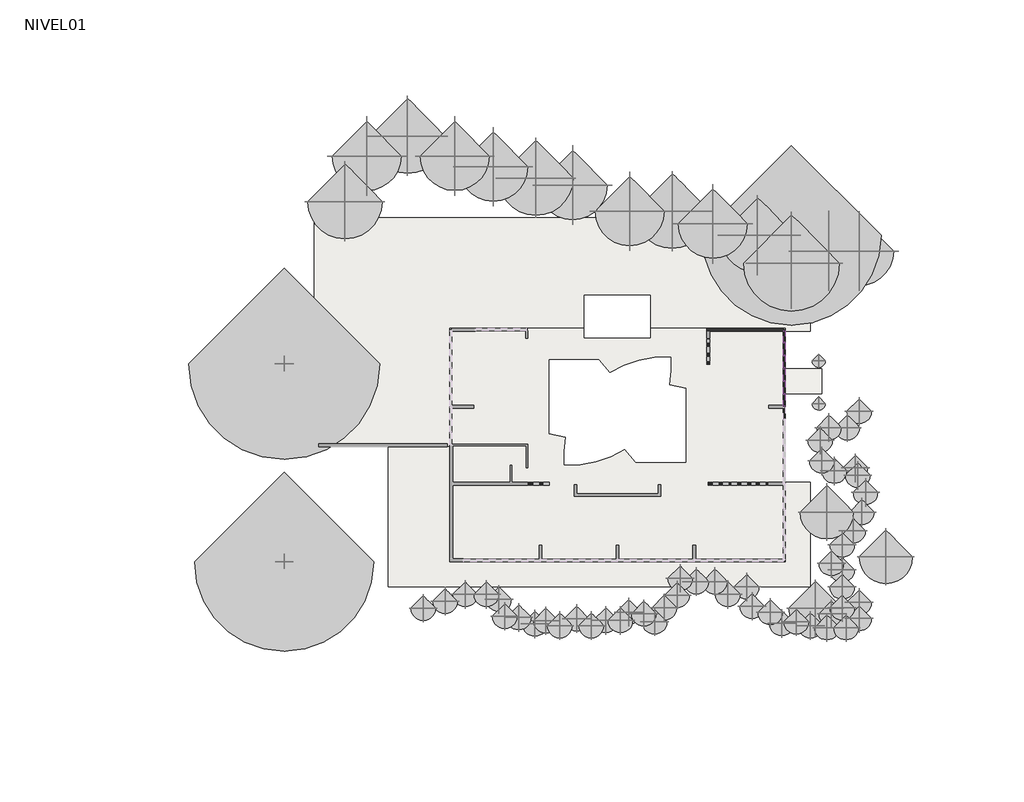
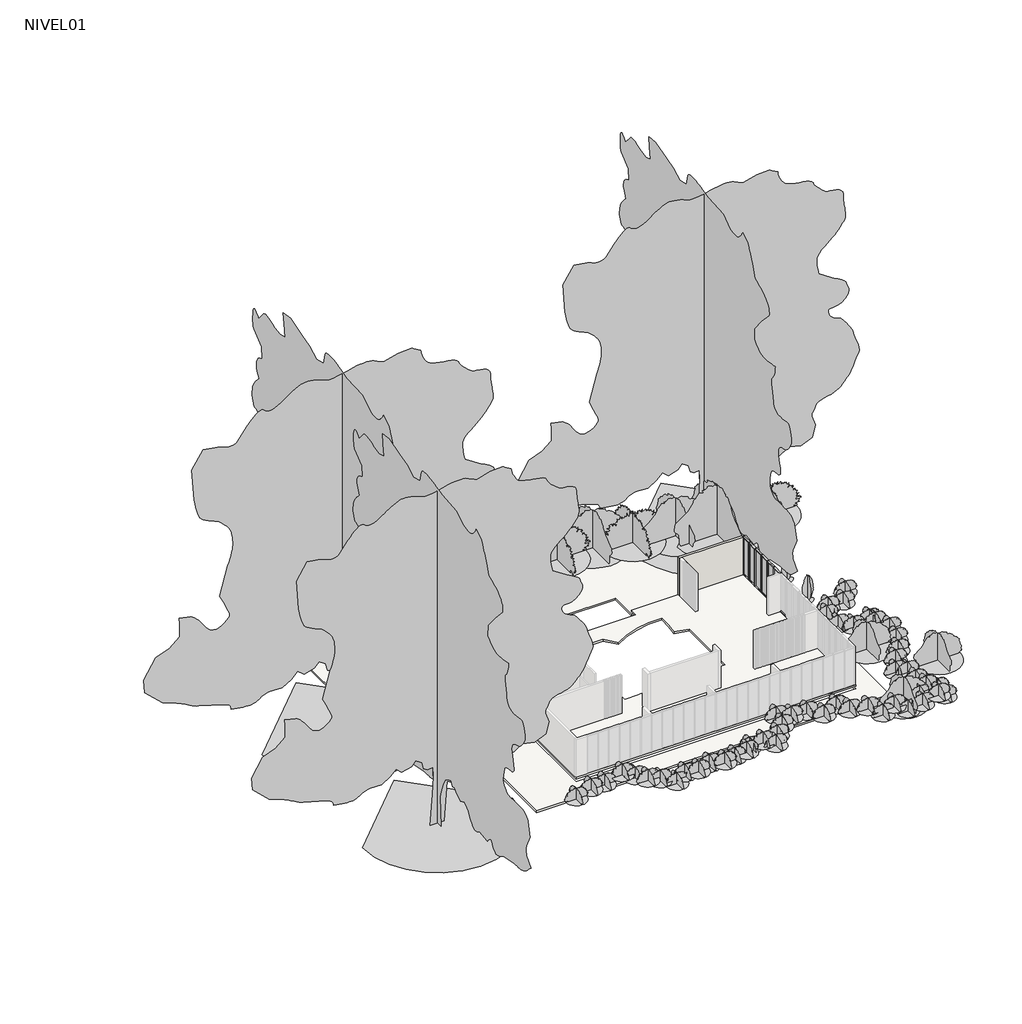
# One storey, part 4 of 4: 72 geographic elements, 20 members, 5 plates, 4 slabs, 1 wall.
"""IFC4 building model written with IfcOpenShell, lengths in millimetres."""

from ifc_helpers import new_model, si_unit, point, frame, frame_2d, origin, place, context, project, spatial, polyline, circle_curve, trimmed, segment, composite_curve, outline, extrude, faceted_brep, transform, mapped, element, save
from components import m_rpc_shrub_386fc6e6, m_rpc_shrub_6250ff07, m_rpc_shrub_65977daa, m_rpc_shrub_0614e2a3, m_rpc_shrub_826c47de, m_rpc_tree_conifer_chinese_juniper_2_14_meters_bd42ecf2, m_rpc_tree_conifer_yellow_pine_30_meters_b7874818, m_rpc_tree_conifer_yellow_pine_32_9beb3d10, rectangular_mullion_50_x_150mm_86a57cfb, rectangular_mullion_50_x_150mm_24ac0887, rectangular_mullion_50_x_150mm_8dc60d6a, rectangular_mullion_50_x_150mm_324a6438, system_panel_glazed_e7fe89f5, system_panel_glazed_7f3dea71

model = new_model("IFC4")

# Units and contexts
model_context = context("Model", 3, world=origin())
ifc_project = project(units=[si_unit("LENGTHUNIT", "METRE", prefix="MILLI")], contexts=[model_context])

# Site, building, storey
site = spatial("IfcSite", under=ifc_project)
building = spatial("IfcBuilding", under=site)
storey = spatial("IfcBuildingStorey", under=building, Name="NIVEL01", Elevation=-1000.0)

# Geographic elements
placement = place(None, origin())
m_rpc_shrub_shape = m_rpc_shrub_386fc6e6(model_context)
element("IfcGeographicElement", 1, ObjectType="M_RPC Shrub : Holly - 2.5 Meters", at=placement, inside=storey, context=model_context, shape_type="MappedRepresentation", body=[
    mapped(m_rpc_shrub_shape, transform((7517.9553864, -2268.7372826, -1000.0), x_axis=(1.0, 0.0, 0.0), y_axis=(0.0, 1.0, 0.0), z_axis=(0.0, 0.0, 1.0))),
])
element("IfcGeographicElement", 2, ObjectType="M_RPC Shrub : Holly - 2.5 Meters", at=placement, inside=storey, context=model_context, shape_type="MappedRepresentation", body=[
    mapped(m_rpc_shrub_shape, transform((11660.2850087, -5412.0860759, -1500.0), x_axis=(1.0, 0.0, 0.0), y_axis=(0.0, 1.0, 0.0), z_axis=(0.0, 0.0, 1.0))),
])
element("IfcGeographicElement", 3, ObjectType="M_RPC Shrub : Holly - 2.5 Meters", at=placement, inside=storey, context=model_context, shape_type="MappedRepresentation", body=[
    mapped(m_rpc_shrub_shape, transform((6713.9430751, -9016.5534411, -1500.0), x_axis=(1.0, 0.0, 0.0), y_axis=(0.0, 1.0, 0.0), z_axis=(0.0, 0.0, 1.0))),
])
m_rpc_shrub_2_shape = m_rpc_shrub_6250ff07(model_context)
element("IfcGeographicElement", 4, ObjectType="M_RPC Shrub : Holly - 3.5 Meters", at=placement, inside=storey, context=model_context, shape_type="MappedRepresentation", body=[
    mapped(m_rpc_shrub_2_shape, transform((2666.4065252, 17157.274713, -1000.0), x_axis=(1.0, 0.0, 0.0), y_axis=(0.0, 1.0, 0.0), z_axis=(0.0, 0.0, 1.0))),
])
element("IfcGeographicElement", 5, ObjectType="M_RPC Shrub : Holly - 3.5 Meters", at=placement, inside=storey, context=model_context, shape_type="MappedRepresentation", body=[
    mapped(m_rpc_shrub_2_shape, transform((7666.4065252, 16061.8139241, -1000.0), x_axis=(1.0, 0.0, 0.0), y_axis=(0.0, 1.0, 0.0), z_axis=(0.0, 0.0, 1.0))),
])
element("IfcGeographicElement", 6, ObjectType="M_RPC Shrub : Holly - 3.5 Meters", at=placement, inside=storey, context=model_context, shape_type="MappedRepresentation", body=[
    mapped(m_rpc_shrub_2_shape, transform((-3331.5766686, 18856.2125739, -1000.0), x_axis=(1.0, 0.0, 0.0), y_axis=(0.0, 1.0, 0.0), z_axis=(0.0, 0.0, 1.0))),
])
element("IfcGeographicElement", 7, ObjectType="M_RPC Shrub : Holly - 3.5 Meters", at=placement, inside=storey, context=model_context, shape_type="MappedRepresentation", body=[
    mapped(m_rpc_shrub_2_shape, transform((-26309.3934748, 19533.9139241, -1000.0), x_axis=(1.0, 0.0, 0.0), y_axis=(0.0, 1.0, 0.0), z_axis=(0.0, 0.0, 1.0))),
])
element("IfcGeographicElement", 8, ObjectType="M_RPC Shrub : Holly - 3.5 Meters", at=placement, inside=storey, context=model_context, shape_type="MappedRepresentation", body=[
    mapped(m_rpc_shrub_2_shape, transform((-21909.3934748, 24133.9139241, -1000.0), x_axis=(1.0, 0.0, 0.0), y_axis=(0.0, 1.0, 0.0), z_axis=(0.0, 0.0, 1.0))),
])
element("IfcGeographicElement", 9, ObjectType="M_RPC Shrub : Holly - 3.5 Meters", at=placement, inside=storey, context=model_context, shape_type="MappedRepresentation", body=[
    mapped(m_rpc_shrub_2_shape, transform((-12909.3934748, 21184.7139241, -1000.0), x_axis=(1.0, 0.0, 0.0), y_axis=(0.0, 1.0, 0.0), z_axis=(0.0, 0.0, 1.0))),
])
m_rpc_shrub_3_shape = m_rpc_shrub_65977daa(model_context)
element("IfcGeographicElement", 10, ObjectType="M_RPC Shrub : Holly - 2.8 Meters", at=placement, inside=storey, context=model_context, shape_type="MappedRepresentation", body=[
    mapped(m_rpc_shrub_3_shape, transform((-483.5934748, 17971.8139241, -1000.0), x_axis=(1.0, 0.0, 0.0), y_axis=(0.0, 1.0, 0.0), z_axis=(0.0, 0.0, 1.0))),
])
element("IfcGeographicElement", 11, ObjectType="M_RPC Shrub : Holly - 2.8 Meters", at=placement, inside=storey, context=model_context, shape_type="MappedRepresentation", body=[
    mapped(m_rpc_shrub_3_shape, transform((9777.0664754, 16061.8139241, -1000.0), x_axis=(1.0, 0.0, 0.0), y_axis=(0.0, 1.0, 0.0), z_axis=(0.0, 0.0, 1.0))),
])
element("IfcGeographicElement", 12, ObjectType="M_RPC Shrub : Holly - 2.8 Meters", at=placement, inside=storey, context=model_context, shape_type="MappedRepresentation", body=[
    mapped(m_rpc_shrub_3_shape, transform((-6331.5766686, 18856.2125739, -1000.0), x_axis=(1.0, 0.0, 0.0), y_axis=(0.0, 1.0, 0.0), z_axis=(0.0, 0.0, 1.0))),
])
element("IfcGeographicElement", 13, ObjectType="M_RPC Shrub : Holly - 2.8 Meters", at=placement, inside=storey, context=model_context, shape_type="MappedRepresentation", body=[
    mapped(m_rpc_shrub_3_shape, transform((-10334.9329126, 20687.7409448, -1000.0), x_axis=(1.0, 0.0, 0.0), y_axis=(0.0, 1.0, 0.0), z_axis=(0.0, 0.0, 1.0))),
])
element("IfcGeographicElement", 14, ObjectType="M_RPC Shrub : Holly - 2.8 Meters", at=placement, inside=storey, context=model_context, shape_type="MappedRepresentation", body=[
    mapped(m_rpc_shrub_3_shape, transform((-15909.3934748, 21984.7139241, -1000.0), x_axis=(1.0, 0.0, 0.0), y_axis=(0.0, 1.0, 0.0), z_axis=(0.0, 0.0, 1.0))),
])
element("IfcGeographicElement", 15, ObjectType="M_RPC Shrub : Holly - 2.8 Meters", at=placement, inside=storey, context=model_context, shape_type="MappedRepresentation", body=[
    mapped(m_rpc_shrub_3_shape, transform((-18609.3934748, 22733.9139241, -1000.0), x_axis=(1.0, 0.0, 0.0), y_axis=(0.0, 1.0, 0.0), z_axis=(0.0, 0.0, 1.0))),
])
element("IfcGeographicElement", 16, ObjectType="M_RPC Shrub : Holly - 2.8 Meters", at=placement, inside=storey, context=model_context, shape_type="MappedRepresentation", body=[
    mapped(m_rpc_shrub_3_shape, transform((-24784.3934748, 22733.9139241, -1000.0), x_axis=(1.0, 0.0, 0.0), y_axis=(0.0, 1.0, 0.0), z_axis=(0.0, 0.0, 1.0))),
])
m_rpc_shrub_4_shape = m_rpc_shrub_0614e2a3(model_context)
element("IfcGeographicElement", 17, ObjectType="M_RPC Shrub : Holly - 1.0 Meters", at=placement, inside=storey, context=model_context, shape_type="MappedRepresentation", body=[
    mapped(m_rpc_shrub_4_shape, transform((7516.4065252, -10365.5860763, -1000.0), x_axis=(1.0, 0.0, 0.0), y_axis=(0.0, 1.0, 0.0), z_axis=(0.0, 0.0, 1.0))),
])
element("IfcGeographicElement", 18, ObjectType="M_RPC Shrub : Holly - 1.0 Meters", at=placement, inside=storey, context=model_context, shape_type="MappedRepresentation", body=[
    mapped(m_rpc_shrub_4_shape, transform((9777.0664754, -9730.0860759, -1500.0), x_axis=(1.0, 0.0, 0.0), y_axis=(0.0, 1.0, 0.0), z_axis=(0.0, 0.0, 1.0))),
])
element("IfcGeographicElement", 19, ObjectType="M_RPC Shrub : Holly - 1.0 Meters", at=placement, inside=storey, context=model_context, shape_type="MappedRepresentation", body=[
    mapped(m_rpc_shrub_4_shape, transform((9777.0664754, -8606.0860759, -1500.0), x_axis=(1.0, 0.0, 0.0), y_axis=(0.0, 1.0, 0.0), z_axis=(0.0, 0.0, 1.0))),
])
element("IfcGeographicElement", 20, ObjectType="M_RPC Shrub : Holly - 1.0 Meters", at=placement, inside=storey, context=model_context, shape_type="MappedRepresentation", body=[
    mapped(m_rpc_shrub_4_shape, transform((8589.6752609, -7516.0860759, -1000.0), x_axis=(1.0, 0.0, 0.0), y_axis=(0.0, 1.0, 0.0), z_axis=(0.0, 0.0, 1.0))),
])
element("IfcGeographicElement", 21, ObjectType="M_RPC Shrub : Holly - 1.0 Meters", at=placement, inside=storey, context=model_context, shape_type="MappedRepresentation", body=[
    mapped(m_rpc_shrub_4_shape, transform((7839.6752609, -5866.0860759, -1000.0), x_axis=(1.0, 0.0, 0.0), y_axis=(0.0, 1.0, 0.0), z_axis=(0.0, 0.0, 1.0))),
])
element("IfcGeographicElement", 22, ObjectType="M_RPC Shrub : Holly - 1.0 Meters", at=placement, inside=storey, context=model_context, shape_type="MappedRepresentation", body=[
    mapped(m_rpc_shrub_4_shape, transform((8589.6752609, -4567.0479703, -1000.0), x_axis=(1.0, 0.0, 0.0), y_axis=(0.0, 1.0, 0.0), z_axis=(0.0, 0.0, 1.0))),
])
element("IfcGeographicElement", 23, ObjectType="M_RPC Shrub : Holly - 1.0 Meters", at=placement, inside=storey, context=model_context, shape_type="MappedRepresentation", body=[
    mapped(m_rpc_shrub_4_shape, transform((9361.4065252, -3576.0860759, -1000.0), x_axis=(1.0, 0.0, 0.0), y_axis=(0.0, 1.0, 0.0), z_axis=(0.0, 0.0, 1.0))),
])
element("IfcGeographicElement", 24, ObjectType="M_RPC Shrub : Holly - 1.0 Meters", at=placement, inside=storey, context=model_context, shape_type="MappedRepresentation", body=[
    mapped(m_rpc_shrub_4_shape, transform((9973.9125273, -2266.0860759, -1000.0), x_axis=(1.0, 0.0, 0.0), y_axis=(0.0, 1.0, 0.0), z_axis=(0.0, 0.0, 1.0))),
])
element("IfcGeographicElement", 25, ObjectType="M_RPC Shrub : Holly - 1.0 Meters", at=placement, inside=storey, context=model_context, shape_type="MappedRepresentation", body=[
    mapped(m_rpc_shrub_4_shape, transform((10229.7152912, -877.2816632, -1000.0), x_axis=(1.0, 0.0, 0.0), y_axis=(0.0, 1.0, 0.0), z_axis=(0.0, 0.0, 1.0))),
])
element("IfcGeographicElement", 26, ObjectType="M_RPC Shrub : Holly - 1.0 Meters", at=placement, inside=storey, context=model_context, shape_type="MappedRepresentation", body=[
    mapped(m_rpc_shrub_4_shape, transform((9684.7152912, 312.7183368, -1000.0), x_axis=(1.0, 0.0, 0.0), y_axis=(0.0, 1.0, 0.0), z_axis=(0.0, 0.0, 1.0))),
])
element("IfcGeographicElement", 27, ObjectType="M_RPC Shrub : Holly - 1.0 Meters", at=placement, inside=storey, context=model_context, shape_type="MappedRepresentation", body=[
    mapped(m_rpc_shrub_4_shape, transform((9516.4065252, 833.9139241, -1000.0), x_axis=(1.0, 0.0, 0.0), y_axis=(0.0, 1.0, 0.0), z_axis=(0.0, 0.0, 1.0))),
])
element("IfcGeographicElement", 28, ObjectType="M_RPC Shrub : Holly - 1.0 Meters", at=placement, inside=storey, context=model_context, shape_type="MappedRepresentation", body=[
    mapped(m_rpc_shrub_4_shape, transform((8045.5845625, 623.2334955, -1000.0), x_axis=(1.0, 0.0, 0.0), y_axis=(0.0, 1.0, 0.0), z_axis=(0.0, 0.0, 1.0))),
])
element("IfcGeographicElement", 29, ObjectType="M_RPC Shrub : Holly - 1.0 Meters", at=placement, inside=storey, context=model_context, shape_type="MappedRepresentation", body=[
    mapped(m_rpc_shrub_4_shape, transform((7166.4065252, 1333.9139241, -1000.0), x_axis=(1.0, 0.0, 0.0), y_axis=(0.0, 1.0, 0.0), z_axis=(0.0, 0.0, 1.0))),
])
element("IfcGeographicElement", 30, ObjectType="M_RPC Shrub : Holly - 1.0 Meters", at=placement, inside=storey, context=model_context, shape_type="MappedRepresentation", body=[
    mapped(m_rpc_shrub_4_shape, transform((7666.4065252, 3669.0938725, -1000.0), x_axis=(1.0, 0.0, 0.0), y_axis=(0.0, 1.0, 0.0), z_axis=(0.0, 0.0, 1.0))),
])
element("IfcGeographicElement", 31, ObjectType="M_RPC Shrub : Holly - 1.0 Meters", at=placement, inside=storey, context=model_context, shape_type="MappedRepresentation", body=[
    mapped(m_rpc_shrub_4_shape, transform((7045.5845625, 2781.5955228, -1000.0), x_axis=(1.0, 0.0, 0.0), y_axis=(0.0, 1.0, 0.0), z_axis=(0.0, 0.0, 1.0))),
])
element("IfcGeographicElement", 32, ObjectType="M_RPC Shrub : Holly - 1.0 Meters", at=placement, inside=storey, context=model_context, shape_type="MappedRepresentation", body=[
    mapped(m_rpc_shrub_4_shape, transform((8948.8309153, 3669.0938725, -1000.0), x_axis=(1.0, 0.0, 0.0), y_axis=(0.0, 1.0, 0.0), z_axis=(0.0, 0.0, 1.0))),
])
element("IfcGeographicElement", 33, ObjectType="M_RPC Shrub : Holly - 1.0 Meters", at=placement, inside=storey, context=model_context, shape_type="MappedRepresentation", body=[
    mapped(m_rpc_shrub_4_shape, transform((9777.0664754, 4807.4903604, -1000.0), x_axis=(1.0, 0.0, 0.0), y_axis=(0.0, 1.0, 0.0), z_axis=(0.0, 0.0, 1.0))),
])
element("IfcGeographicElement", 34, ObjectType="M_RPC Shrub : Holly - 1.0 Meters", at=placement, inside=storey, context=model_context, shape_type="MappedRepresentation", body=[
    mapped(m_rpc_shrub_4_shape, transform((6366.4065252, -10230.7090578, -1250.0), x_axis=(1.0, 0.0, 0.0), y_axis=(0.0, 1.0, 0.0), z_axis=(0.0, 0.0, 1.0))),
])
element("IfcGeographicElement", 35, ObjectType="M_RPC Shrub : Holly - 1.0 Meters", at=placement, inside=storey, context=model_context, shape_type="MappedRepresentation", body=[
    mapped(m_rpc_shrub_4_shape, transform((4351.4065252, -10078.2778352, -1000.0), x_axis=(1.0, 0.0, 0.0), y_axis=(0.0, 1.0, 0.0), z_axis=(0.0, 0.0, 1.0))),
])
element("IfcGeographicElement", 36, ObjectType="M_RPC Shrub : Holly - 1.0 Meters", at=placement, inside=storey, context=model_context, shape_type="MappedRepresentation", body=[
    mapped(m_rpc_shrub_4_shape, transform((568.4233314, -8041.0860763, -1000.0), x_axis=(1.0, 0.0, 0.0), y_axis=(0.0, 1.0, 0.0), z_axis=(0.0, 0.0, 1.0))),
])
element("IfcGeographicElement", 37, ObjectType="M_RPC Shrub : Holly - 1.0 Meters", at=placement, inside=storey, context=model_context, shape_type="MappedRepresentation", body=[
    mapped(m_rpc_shrub_4_shape, transform((-4578.5934748, -9965.5860763, -650.0), x_axis=(1.0, 0.0, 0.0), y_axis=(0.0, 1.0, 0.0), z_axis=(0.0, 0.0, 1.0))),
])
element("IfcGeographicElement", 38, ObjectType="M_RPC Shrub : Holly - 1.0 Meters", at=placement, inside=storey, context=model_context, shape_type="MappedRepresentation", body=[
    mapped(m_rpc_shrub_4_shape, transform((-12983.8812028, -10113.2305049, -1000.0), x_axis=(1.0, 0.0, 0.0), y_axis=(0.0, 1.0, 0.0), z_axis=(0.0, 0.0, 1.0))),
])
element("IfcGeographicElement", 39, ObjectType="M_RPC Shrub : Holly - 1.0 Meters", at=placement, inside=storey, context=model_context, shape_type="MappedRepresentation", body=[
    mapped(m_rpc_shrub_4_shape, transform((-16383.5934748, -8041.0860763, -300.0), x_axis=(1.0, 0.0, 0.0), y_axis=(0.0, 1.0, 0.0), z_axis=(0.0, 0.0, 1.0))),
])
element("IfcGeographicElement", 40, ObjectType="M_RPC Shrub : Holly - 1.0 Meters", at=placement, inside=storey, context=model_context, shape_type="MappedRepresentation", body=[
    mapped(m_rpc_shrub_4_shape, transform((-19283.5934748, -8514.507297, -300.0), x_axis=(1.0, 0.0, 0.0), y_axis=(0.0, 1.0, 0.0), z_axis=(0.0, 0.0, 1.0))),
])
element("IfcGeographicElement", 41, ObjectType="M_RPC Shrub : Holly - 1.0 Meters", at=placement, inside=storey, context=model_context, shape_type="MappedRepresentation", body=[
    mapped(m_rpc_shrub_4_shape, transform((-20819.7580633, -9016.5534411, -300.0), x_axis=(1.0, 0.0, 0.0), y_axis=(0.0, 1.0, 0.0), z_axis=(0.0, 0.0, 1.0))),
])
element("IfcGeographicElement", 42, ObjectType="M_RPC Shrub : Holly - 1.0 Meters", at=placement, inside=storey, context=model_context, shape_type="MappedRepresentation", body=[
    mapped(m_rpc_shrub_4_shape, transform((-6972.7534099, -9863.7884992, -500.0), x_axis=(1.0, 0.0, 0.0), y_axis=(0.0, 1.0, 0.0), z_axis=(0.0, 0.0, 1.0))),
])
element("IfcGeographicElement", 43, ObjectType="M_RPC Shrub : Holly - 1.0 Meters", at=placement, inside=storey, context=model_context, shape_type="MappedRepresentation", body=[
    mapped(m_rpc_shrub_4_shape, transform((-15092.7934748, -9579.4016136, -300.0), x_axis=(1.0, 0.0, 0.0), y_axis=(0.0, 1.0, 0.0), z_axis=(0.0, 0.0, 1.0))),
])
element("IfcGeographicElement", 44, ObjectType="M_RPC Shrub : Holly - 1.0 Meters", at=placement, inside=storey, context=model_context, shape_type="MappedRepresentation", body=[
    mapped(m_rpc_shrub_4_shape, transform((-5330.9317927, -9398.4140035, -500.0), x_axis=(1.0, 0.0, 0.0), y_axis=(0.0, 1.0, 0.0), z_axis=(0.0, 0.0, 1.0))),
])
element("IfcGeographicElement", 45, ObjectType="M_RPC Shrub : Holly - 1.0 Meters", at=placement, inside=storey, context=model_context, shape_type="MappedRepresentation", body=[
    mapped(m_rpc_shrub_4_shape, transform((-9024.4476115, -10230.7090578, -500.0), x_axis=(1.0, 0.0, 0.0), y_axis=(0.0, 1.0, 0.0), z_axis=(0.0, 0.0, 1.0))),
])
element("IfcGeographicElement", 46, ObjectType="M_RPC Shrub : Holly - 1.0 Meters", at=placement, inside=storey, context=model_context, shape_type="MappedRepresentation", body=[
    mapped(m_rpc_shrub_4_shape, transform((-11232.2102242, -10230.7090578, -500.0), x_axis=(1.0, 0.0, 0.0), y_axis=(0.0, 1.0, 0.0), z_axis=(0.0, 0.0, 1.0))),
])
element("IfcGeographicElement", 47, ObjectType="M_RPC Shrub : Holly - 1.0 Meters", at=placement, inside=storey, context=model_context, shape_type="MappedRepresentation", body=[
    mapped(m_rpc_shrub_4_shape, transform((2266.4065252, -8869.3673953, -650.0), x_axis=(1.0, 0.0, 0.0), y_axis=(0.0, 1.0, 0.0), z_axis=(0.0, 0.0, 1.0))),
])
element("IfcGeographicElement", 48, ObjectType="M_RPC Shrub : Holly - 1.0 Meters", at=placement, inside=storey, context=model_context, shape_type="MappedRepresentation", body=[
    mapped(m_rpc_shrub_4_shape, transform((-3887.6511961, -8978.8182381, -650.0), x_axis=(1.0, 0.0, 0.0), y_axis=(0.0, 1.0, 0.0), z_axis=(0.0, 0.0, 1.0))),
])
element("IfcGeographicElement", 49, ObjectType="M_RPC Shrub : Holly - 1.0 Meters", at=placement, inside=storey, context=model_context, shape_type="MappedRepresentation", body=[
    mapped(m_rpc_shrub_4_shape, transform((-2783.5934748, -6912.0860759, -650.0), x_axis=(1.0, 0.0, 0.0), y_axis=(0.0, 1.0, 0.0), z_axis=(0.0, 0.0, 1.0))),
])
element("IfcGeographicElement", 50, ObjectType="M_RPC Shrub : Holly - 1.0 Meters", at=placement, inside=storey, context=model_context, shape_type="MappedRepresentation", body=[
    mapped(m_rpc_shrub_4_shape, transform((-1652.6388985, -7142.281144, -900.0), x_axis=(1.0, 0.0, 0.0), y_axis=(0.0, 1.0, 0.0), z_axis=(0.0, 0.0, 1.0))),
])
element("IfcGeographicElement", 51, ObjectType="M_RPC Shrub : Holly - 1.0 Meters", at=placement, inside=storey, context=model_context, shape_type="MappedRepresentation", body=[
    mapped(m_rpc_shrub_4_shape, transform((-348.5934748, -7142.281144, -1000.0), x_axis=(1.0, 0.0, 0.0), y_axis=(0.0, 1.0, 0.0), z_axis=(0.0, 0.0, 1.0))),
])
element("IfcGeographicElement", 52, ObjectType="M_RPC Shrub : Holly - 1.0 Meters", at=placement, inside=storey, context=model_context, shape_type="MappedRepresentation", body=[
    mapped(m_rpc_shrub_4_shape, transform((1881.4065252, -7516.0860759, -1000.0), x_axis=(1.0, 0.0, 0.0), y_axis=(0.0, 1.0, 0.0), z_axis=(0.0, 0.0, 1.0))),
])
element("IfcGeographicElement", 53, ObjectType="M_RPC Shrub : Holly - 1.0 Meters", at=placement, inside=storey, context=model_context, shape_type="MappedRepresentation", body=[
    mapped(m_rpc_shrub_4_shape, transform((-6404.9772164, -9282.3542555, -650.0), x_axis=(1.0, 0.0, 0.0), y_axis=(0.0, 1.0, 0.0), z_axis=(0.0, 0.0, 1.0))),
])
element("IfcGeographicElement", 54, ObjectType="M_RPC Shrub : Holly - 1.0 Meters", at=placement, inside=storey, context=model_context, shape_type="MappedRepresentation", body=[
    mapped(m_rpc_shrub_4_shape, transform((-8002.4546717, -9863.7884992, -650.0), x_axis=(1.0, 0.0, 0.0), y_axis=(0.0, 1.0, 0.0), z_axis=(0.0, 0.0, 1.0))),
])
element("IfcGeographicElement", 55, ObjectType="M_RPC Shrub : Holly - 1.0 Meters", at=placement, inside=storey, context=model_context, shape_type="MappedRepresentation", body=[
    mapped(m_rpc_shrub_4_shape, transform((-10056.7370854, -9741.2547249, -650.0), x_axis=(1.0, 0.0, 0.0), y_axis=(0.0, 1.0, 0.0), z_axis=(0.0, 0.0, 1.0))),
])
element("IfcGeographicElement", 56, ObjectType="M_RPC Shrub : Holly - 1.0 Meters", at=placement, inside=storey, context=model_context, shape_type="MappedRepresentation", body=[
    mapped(m_rpc_shrub_4_shape, transform((-14114.2657142, -9662.4385392, -650.0), x_axis=(1.0, 0.0, 0.0), y_axis=(0.0, 1.0, 0.0), z_axis=(0.0, 0.0, 1.0))),
])
element("IfcGeographicElement", 57, ObjectType="M_RPC Shrub : Holly - 1.0 Meters", at=placement, inside=storey, context=model_context, shape_type="MappedRepresentation", body=[
    mapped(m_rpc_shrub_4_shape, transform((-12210.5338238, -9894.1514348, -650.0), x_axis=(1.0, 0.0, 0.0), y_axis=(0.0, 1.0, 0.0), z_axis=(0.0, 0.0, 1.0))),
])
element("IfcGeographicElement", 58, ObjectType="M_RPC Shrub : Holly - 1.0 Meters", at=placement, inside=storey, context=model_context, shape_type="MappedRepresentation", body=[
    mapped(m_rpc_shrub_4_shape, transform((-17877.6388985, -8042.281144, -650.0), x_axis=(1.0, 0.0, 0.0), y_axis=(0.0, 1.0, 0.0), z_axis=(0.0, 0.0, 1.0))),
])
element("IfcGeographicElement", 59, ObjectType="M_RPC Shrub : Holly - 1.0 Meters", at=placement, inside=storey, context=model_context, shape_type="MappedRepresentation", body=[
    mapped(m_rpc_shrub_4_shape, transform((-15502.8756923, -8389.4118312, -650.0), x_axis=(1.0, 0.0, 0.0), y_axis=(0.0, 1.0, 0.0), z_axis=(0.0, 0.0, 1.0))),
])
element("IfcGeographicElement", 60, ObjectType="M_RPC Shrub : Holly - 1.0 Meters", at=placement, inside=storey, context=model_context, shape_type="MappedRepresentation", body=[
    mapped(m_rpc_shrub_4_shape, transform((3551.4065252, -9307.1408798, -650.0), x_axis=(1.0, 0.0, 0.0), y_axis=(0.0, 1.0, 0.0), z_axis=(0.0, 0.0, 1.0))),
])
element("IfcGeographicElement", 61, ObjectType="M_RPC Shrub : Holly - 1.0 Meters", at=placement, inside=storey, context=model_context, shape_type="MappedRepresentation", body=[
    mapped(m_rpc_shrub_4_shape, transform((5366.4065252, -9965.5860763, -650.0), x_axis=(1.0, 0.0, 0.0), y_axis=(0.0, 1.0, 0.0), z_axis=(0.0, 0.0, 1.0))),
])
element("IfcGeographicElement", 62, ObjectType="M_RPC Shrub : Holly - 1.0 Meters", at=placement, inside=storey, context=model_context, shape_type="MappedRepresentation", body=[
    mapped(m_rpc_shrub_4_shape, transform((8861.4065252, -10365.5860763, -650.0), x_axis=(1.0, 0.0, 0.0), y_axis=(0.0, 1.0, 0.0), z_axis=(0.0, 0.0, 1.0))),
])
element("IfcGeographicElement", 63, ObjectType="M_RPC Shrub : Holly - 1.0 Meters", at=placement, inside=storey, context=model_context, shape_type="MappedRepresentation", body=[
    mapped(m_rpc_shrub_4_shape, transform((8589.6752609, -8978.8182381, -650.0), x_axis=(1.0, 0.0, 0.0), y_axis=(0.0, 1.0, 0.0), z_axis=(0.0, 0.0, 1.0))),
])
element("IfcGeographicElement", 64, ObjectType="M_RPC Shrub : Holly - 1.0 Meters", at=placement, inside=storey, context=model_context, shape_type="MappedRepresentation", body=[
    mapped(m_rpc_shrub_4_shape, transform((-2991.971288, -8093.8553796, -650.0), x_axis=(1.0, 0.0, 0.0), y_axis=(0.0, 1.0, 0.0), z_axis=(0.0, 0.0, 1.0))),
])
element("IfcGeographicElement", 65, ObjectType="M_RPC Shrub : Holly - 1.0 Meters", at=placement, inside=storey, context=model_context, shape_type="MappedRepresentation", body=[
    mapped(m_rpc_shrub_4_shape, transform((7839.6752609, -9398.4140035, -1000.0), x_axis=(1.0, 0.0, 0.0), y_axis=(0.0, 1.0, 0.0), z_axis=(0.0, 0.0, 1.0))),
])
element("IfcGeographicElement", 66, ObjectType="M_RPC Shrub : Holly - 1.0 Meters", at=placement, inside=storey, context=model_context, shape_type="MappedRepresentation", body=[
    mapped(m_rpc_shrub_4_shape, transform((8589.6752609, -6320.0860759, -1000.0), x_axis=(1.0, 0.0, 0.0), y_axis=(0.0, 1.0, 0.0), z_axis=(0.0, 0.0, 1.0))),
])
m_rpc_shrub_5_shape = m_rpc_shrub_826c47de(model_context)
element("IfcGeographicElement", 67, ObjectType="M_RPC Shrub : Holly - 4.5 Meters", at=placement, inside=storey, context=model_context, shape_type="MappedRepresentation", body=[
    mapped(m_rpc_shrub_5_shape, transform((5033.0298548, 15198.7700724, -500.0), x_axis=(1.0, 0.0, 0.0), y_axis=(0.0, 1.0, 0.0), z_axis=(0.0, 0.0, 1.0))),
])
m_rpc_tree_conifer_chinese_juniper_2_14_meters_shape = m_rpc_tree_conifer_chinese_juniper_2_14_meters_bd42ecf2(model_context)
element("IfcGeographicElement", 68, ObjectType="M_RPC Tree - Conifer : Chinese Juniper - 2.14 Meters", at=placement, inside=storey, context=model_context, shape_type="MappedRepresentation", body=[
    mapped(m_rpc_tree_conifer_chinese_juniper_2_14_meters_shape, transform((6941.2098541, 8358.9139237, -1000.0), x_axis=(1.0, 0.0, 0.0), y_axis=(0.0, 1.0, 0.0), z_axis=(0.0, 0.0, 1.0))),
])
element("IfcGeographicElement", 69, ObjectType="M_RPC Tree - Conifer : Chinese Juniper - 2.14 Meters", at=placement, inside=storey, context=model_context, shape_type="MappedRepresentation", body=[
    mapped(m_rpc_tree_conifer_chinese_juniper_2_14_meters_shape, transform((6941.2098541, 5358.9139237, -1000.0), x_axis=(1.0, 0.0, 0.0), y_axis=(0.0, 1.0, 0.0), z_axis=(0.0, 0.0, 1.0))),
])
m_rpc_tree_conifer_yellow_pine_30_meters_shape = m_rpc_tree_conifer_yellow_pine_30_meters_b7874818(model_context)
element("IfcGeographicElement", 70, ObjectType="M_RPC Tree - Conifer : Yellow Pine - 30 Meters", at=placement, inside=storey, context=model_context, shape_type="MappedRepresentation", body=[
    mapped(m_rpc_tree_conifer_yellow_pine_30_meters_shape, transform((-30584.5901459, -5741.0860763, -1000.0), x_axis=(1.0, 0.0, 0.0), y_axis=(0.0, 1.0, 0.0), z_axis=(0.0, 0.0, 1.0))),
])
element("IfcGeographicElement", 71, ObjectType="M_RPC Tree - Conifer : Yellow Pine - 30 Meters", at=placement, inside=storey, context=model_context, shape_type="MappedRepresentation", body=[
    mapped(m_rpc_tree_conifer_yellow_pine_30_meters_shape, transform((5032.8331837, 17157.274713, -1000.0), x_axis=(1.0, 0.0, 0.0), y_axis=(0.0, 1.0, 0.0), z_axis=(0.0, 0.0, 1.0))),
])
m_rpc_tree_conifer_yellow_pine_32_shape = m_rpc_tree_conifer_yellow_pine_32_9beb3d10(model_context)
element("IfcGeographicElement", 72, ObjectType="M_RPC Tree - Conifer : Yellow Pine - 32", at=placement, inside=storey, context=model_context, shape_type="MappedRepresentation", body=[
    mapped(m_rpc_tree_conifer_yellow_pine_32_shape, transform((-30584.5901459, 8137.3505358, -1000.0), x_axis=(1.0, 0.0, 0.0), y_axis=(0.0, 1.0, 0.0), z_axis=(0.0, 0.0, 1.0))),
])

# Members
rectangular_mullion_50_x_150mm_shape = rectangular_mullion_50_x_150mm_86a57cfb(model_context)
element("IfcMember", 73, ObjectType="Rectangular Mullion : 50 x 150mm", at=placement, inside=storey, context=model_context, shape_type="MappedRepresentation", body=[
    mapped(rectangular_mullion_50_x_150mm_shape, transform((4516.4065252, 9633.9139237, -1020.0), x_axis=(0.0, -1.0, 0.0), y_axis=(-1.0, 0.0, 0.0), z_axis=(0.0, 0.0, -1.0))),
])
element("IfcMember", 74, ObjectType="Rectangular Mullion : 50 x 150mm", at=placement, inside=storey, context=model_context, shape_type="MappedRepresentation", body=[
    mapped(rectangular_mullion_50_x_150mm_shape, transform((4516.4065252, 8733.9139237, -1020.0), x_axis=(0.0, -1.0, 0.0), y_axis=(-1.0, 0.0, 0.0), z_axis=(0.0, 0.0, -1.0))),
])
element("IfcMember", 75, ObjectType="Rectangular Mullion : 50 x 150mm", at=placement, inside=storey, context=model_context, shape_type="MappedRepresentation", body=[
    mapped(rectangular_mullion_50_x_150mm_shape, transform((4516.4065252, 7833.9139237, -1020.0), x_axis=(0.0, -1.0, 0.0), y_axis=(-1.0, 0.0, 0.0), z_axis=(0.0, 0.0, -1.0))),
])
element("IfcMember", 76, ObjectType="Rectangular Mullion : 50 x 150mm", at=placement, inside=storey, context=model_context, shape_type="MappedRepresentation", body=[
    mapped(rectangular_mullion_50_x_150mm_shape, transform((4516.4065252, 6933.9139237, -1020.0), x_axis=(0.0, -1.0, 0.0), y_axis=(-1.0, 0.0, 0.0), z_axis=(0.0, 0.0, -1.0))),
])
element("IfcMember", 77, ObjectType="Rectangular Mullion : 50 x 150mm", at=placement, inside=storey, context=model_context, shape_type="MappedRepresentation", body=[
    mapped(rectangular_mullion_50_x_150mm_shape, transform((4516.4065252, 6033.9139237, -1020.0), x_axis=(0.0, -1.0, 0.0), y_axis=(-1.0, 0.0, 0.0), z_axis=(0.0, 0.0, -1.0))),
])
element("IfcMember", 78, ObjectType="Rectangular Mullion : 50 x 150mm", at=placement, inside=storey, context=model_context, shape_type="MappedRepresentation", body=[
    mapped(rectangular_mullion_50_x_150mm_shape, transform((4516.4065252, 5133.9139237, -1020.0), x_axis=(0.0, -1.0, 0.0), y_axis=(-1.0, 0.0, 0.0), z_axis=(0.0, 0.0, -1.0))),
])
rectangular_mullion_50_x_150mm_2_shape = rectangular_mullion_50_x_150mm_24ac0887(model_context)
element("IfcMember", 79, ObjectType="Rectangular Mullion : 50 x 150mm", at=placement, inside=storey, context=model_context, shape_type="MappedRepresentation", body=[
    mapped(rectangular_mullion_50_x_150mm_2_shape, transform((4516.4065252, 10533.9139241, 2330.0), x_axis=(0.0, 1.0, 0.0), y_axis=(-1.0, 0.0, 0.0), z_axis=(0.0, 0.0, 1.0))),
])
rectangular_mullion_50_x_150mm_3_shape = rectangular_mullion_50_x_150mm_8dc60d6a(model_context)
element("IfcMember", 80, ObjectType="Rectangular Mullion : 50 x 150mm", at=placement, inside=storey, context=model_context, shape_type="MappedRepresentation", body=[
    mapped(rectangular_mullion_50_x_150mm_3_shape, transform((4516.4065252, 9658.9139237, 2330.0), x_axis=(0.0, 0.0, 1.0), y_axis=(-1.0, 0.0, 0.0), z_axis=(0.0, -1.0, 0.0))),
])
rectangular_mullion_50_x_150mm_4_shape = rectangular_mullion_50_x_150mm_324a6438(model_context)
element("IfcMember", 81, ObjectType="Rectangular Mullion : 50 x 150mm", at=placement, inside=storey, context=model_context, shape_type="MappedRepresentation", body=[
    mapped(rectangular_mullion_50_x_150mm_4_shape, transform((4516.4065252, 8758.9139237, 2330.0), x_axis=(0.0, 0.0, 1.0), y_axis=(-1.0, 0.0, 0.0), z_axis=(0.0, -1.0, 0.0))),
])
element("IfcMember", 82, ObjectType="Rectangular Mullion : 50 x 150mm", at=placement, inside=storey, context=model_context, shape_type="MappedRepresentation", body=[
    mapped(rectangular_mullion_50_x_150mm_4_shape, transform((4516.4065252, 7858.9139237, 2330.0), x_axis=(0.0, 0.0, 1.0), y_axis=(-1.0, 0.0, 0.0), z_axis=(0.0, -1.0, 0.0))),
])
element("IfcMember", 83, ObjectType="Rectangular Mullion : 50 x 150mm", at=placement, inside=storey, context=model_context, shape_type="MappedRepresentation", body=[
    mapped(rectangular_mullion_50_x_150mm_4_shape, transform((4516.4065252, 6958.9139237, 2330.0), x_axis=(0.0, 0.0, 1.0), y_axis=(-1.0, 0.0, 0.0), z_axis=(0.0, -1.0, 0.0))),
])
element("IfcMember", 84, ObjectType="Rectangular Mullion : 50 x 150mm", at=placement, inside=storey, context=model_context, shape_type="MappedRepresentation", body=[
    mapped(rectangular_mullion_50_x_150mm_4_shape, transform((4516.4065252, 6058.9139237, 2330.0), x_axis=(0.0, 0.0, 1.0), y_axis=(-1.0, 0.0, 0.0), z_axis=(0.0, -1.0, 0.0))),
])
element("IfcMember", 85, ObjectType="Rectangular Mullion : 50 x 150mm", at=placement, inside=storey, context=model_context, shape_type="MappedRepresentation", body=[
    mapped(rectangular_mullion_50_x_150mm_4_shape, transform((4516.4065252, 5158.9139237, 2330.0), x_axis=(0.0, 0.0, 1.0), y_axis=(-1.0, 0.0, 0.0), z_axis=(0.0, -1.0, 0.0))),
])
element("IfcMember", 86, ObjectType="Rectangular Mullion : 50 x 150mm", at=placement, inside=storey, context=model_context, shape_type="MappedRepresentation", body=[
    mapped(rectangular_mullion_50_x_150mm_3_shape, transform((4516.4065252, 10483.9139241, -1020.0), x_axis=(0.0, 0.0, -1.0), y_axis=(-1.0, 0.0, 0.0), z_axis=(0.0, 1.0, 0.0))),
])
element("IfcMember", 87, ObjectType="Rectangular Mullion : 50 x 150mm", at=placement, inside=storey, context=model_context, shape_type="MappedRepresentation", body=[
    mapped(rectangular_mullion_50_x_150mm_4_shape, transform((4516.4065252, 9608.9139237, -1020.0), x_axis=(0.0, 0.0, -1.0), y_axis=(-1.0, 0.0, 0.0), z_axis=(0.0, 1.0, 0.0))),
])
element("IfcMember", 88, ObjectType="Rectangular Mullion : 50 x 150mm", at=placement, inside=storey, context=model_context, shape_type="MappedRepresentation", body=[
    mapped(rectangular_mullion_50_x_150mm_4_shape, transform((4516.4065252, 8708.9139237, -1020.0), x_axis=(0.0, 0.0, -1.0), y_axis=(-1.0, 0.0, 0.0), z_axis=(0.0, 1.0, 0.0))),
])
element("IfcMember", 89, ObjectType="Rectangular Mullion : 50 x 150mm", at=placement, inside=storey, context=model_context, shape_type="MappedRepresentation", body=[
    mapped(rectangular_mullion_50_x_150mm_4_shape, transform((4516.4065252, 7808.9139237, -1020.0), x_axis=(0.0, 0.0, -1.0), y_axis=(-1.0, 0.0, 0.0), z_axis=(0.0, 1.0, 0.0))),
])
element("IfcMember", 90, ObjectType="Rectangular Mullion : 50 x 150mm", at=placement, inside=storey, context=model_context, shape_type="MappedRepresentation", body=[
    mapped(rectangular_mullion_50_x_150mm_4_shape, transform((4516.4065252, 6908.9139237, -1020.0), x_axis=(0.0, 0.0, -1.0), y_axis=(-1.0, 0.0, 0.0), z_axis=(0.0, 1.0, 0.0))),
])
element("IfcMember", 91, ObjectType="Rectangular Mullion : 50 x 150mm", at=placement, inside=storey, context=model_context, shape_type="MappedRepresentation", body=[
    mapped(rectangular_mullion_50_x_150mm_4_shape, transform((4516.4065252, 6008.9139237, -1020.0), x_axis=(0.0, 0.0, -1.0), y_axis=(-1.0, 0.0, 0.0), z_axis=(0.0, 1.0, 0.0))),
])
element("IfcMember", 92, ObjectType="Rectangular Mullion : 50 x 150mm", at=placement, inside=storey, context=model_context, shape_type="MappedRepresentation", body=[
    mapped(rectangular_mullion_50_x_150mm_4_shape, transform((4516.4065252, 5108.9139237, -1020.0), x_axis=(0.0, 0.0, -1.0), y_axis=(-1.0, 0.0, 0.0), z_axis=(0.0, 1.0, 0.0))),
])

# Plates
system_panel_glazed_shape = system_panel_glazed_e7fe89f5(model_context)
element("IfcPlate", 93, ObjectType="System Panel : Glazed", at=placement, inside=storey, context=model_context, shape_type="MappedRepresentation", body=[
    mapped(system_panel_glazed_shape, transform((4516.4065252, 10071.4139239, -970.0), x_axis=(0.0, -1.0, 0.0), y_axis=(1.0, 0.0, 0.0), z_axis=(0.0, 0.0, 1.0))),
])
system_panel_glazed_2_shape = system_panel_glazed_7f3dea71(model_context)
element("IfcPlate", 94, ObjectType="System Panel : Glazed", at=placement, inside=storey, context=model_context, shape_type="MappedRepresentation", body=[
    mapped(system_panel_glazed_2_shape, transform((4516.4065252, 9183.9139237, -970.0), x_axis=(0.0, -1.0, 0.0), y_axis=(1.0, 0.0, 0.0), z_axis=(0.0, 0.0, 1.0))),
])
element("IfcPlate", 95, ObjectType="System Panel : Glazed", at=placement, inside=storey, context=model_context, shape_type="MappedRepresentation", body=[
    mapped(system_panel_glazed_2_shape, transform((4516.4065252, 8283.9139237, -970.0), x_axis=(0.0, -1.0, 0.0), y_axis=(1.0, 0.0, 0.0), z_axis=(0.0, 0.0, 1.0))),
])
element("IfcPlate", 96, ObjectType="System Panel : Glazed", at=placement, inside=storey, context=model_context, shape_type="MappedRepresentation", body=[
    mapped(system_panel_glazed_2_shape, transform((4516.4065252, 7383.9139237, -970.0), x_axis=(0.0, -1.0, 0.0), y_axis=(1.0, 0.0, 0.0), z_axis=(0.0, 0.0, 1.0))),
])
element("IfcPlate", 97, ObjectType="System Panel : Glazed", at=placement, inside=storey, context=model_context, shape_type="MappedRepresentation", body=[
    mapped(system_panel_glazed_2_shape, transform((4516.4065252, 6483.9139237, -970.0), x_axis=(0.0, -1.0, 0.0), y_axis=(1.0, 0.0, 0.0), z_axis=(0.0, 0.0, 1.0))),
])

# Slabs
element("IfcSlab", 98, ObjectType="LOSA-150mm", at=placement, inside=storey, context=model_context, shape_type="SweptSolid", body=[
    extrude(outline(polyline([(4591.4065252, -5741.0860763), (-18958.5934748, -5741.0860763), (-18958.5934748, 10633.9139241), (-9533.5934748, 10633.9139241), (-9533.5934748, 9933.9139241), (-4833.5934748, 9933.9139241), (-4833.5934748, 10633.9139241), (4591.4065252, 10633.9139241), (4591.4065252, -5741.0860763)]), holes=[composite_curve([segment(polyline([(-8483.5934748, 8433.9139241), (-11983.5934748, 8433.9139241), (-11983.5934748, 3230.5248672), (-10808.7040338, 2986.171001)]), True, "CONTINUOUS"), segment(trimmed(circle_curve(frame_2d((-3900.8956512, 1587.773315)), 7047.9310964), [point((-10808.7040338, 2986.171001))], [point((-10928.0704932, 1047.2675525))], True, "CARTESIAN"), True, "CONTINUOUS"), segment(trimmed(circle_curve(frame_2d((-10466.2912985, 8080.0545331)), 7047.9310964), [point((-10928.0704932, 1047.2675525))], [point((-6658.8976812, 2149.0270857))], True, "CARTESIAN"), True, "CONTINUOUS"), segment(polyline([(-6658.8976812, 2149.0270857), (-5883.5934748, 1233.9139241), (-2383.5934748, 1233.9139241), (-2383.5934748, 6437.3029809), (-3558.4829159, 6681.6568471)]), True, "CONTINUOUS"), segment(trimmed(circle_curve(frame_2d((-10466.2912985, 8080.0545331)), 7047.9310964), [point((-3558.4829159, 6681.6568471))], [point((-3439.1164565, 8620.5602956))], True, "CARTESIAN"), True, "CONTINUOUS"), segment(trimmed(circle_curve(frame_2d((-3900.8956512, 1587.773315)), 7047.9310964), [point((-3439.1164565, 8620.5602956))], [point((-7708.2892685, 7518.8007624))], True, "CARTESIAN"), True, "CONTINUOUS"), segment(polyline([(-7708.2892685, 7518.8007624), (-8483.5934748, 8433.9139241)]), True, "CONTINUOUS")], self_intersect=False)]), frame((0.0, 0.0, -1170.0), z_axis=(0.0, 0.0, 1.0), x_axis=(1.0, 0.0, 0.0)), (0.0, 0.0, 1.0), 150.0),
])
element("IfcSlab", 99, ObjectType="LOSA-150mm", at=placement, inside=storey, context=model_context, shape_type="SweptSolid", body=[
    extrude(outline(polyline([(-28484.3934748, 2333.9139237), (-28484.3934748, 18384.7139241), (6366.4065252, 18384.7139241), (6366.4065252, 10433.9139241), (4591.4065252, 10433.9139241), (4591.4065252, 10633.9139241), (-4833.5934748, 10633.9139241), (-4833.5934748, 12984.7139241), (-9533.5934748, 12984.7139241), (-9533.5934748, 10633.9139241), (-18758.5934748, 10633.9139241), (-18758.5934748, 2333.9139237), (-28484.3934748, 2333.9139237)])), frame((0.0, 0.0, -1550.0), z_axis=(0.0, 0.0, 1.0), x_axis=(1.0, 0.0, 0.0)), (0.0, 0.0, 1.0), 150.0),
])
element("IfcSlab", 100, ObjectType="LOSA-150mm", at=placement, inside=storey, context=model_context, shape_type="SweptSolid", body=[
    extrude(outline(polyline([(-23284.3934748, -7516.0860759), (-23284.3934748, 2333.9139237), (-18958.5934748, 2333.9139237), (-18958.5934748, -5741.0860763), (4591.4065252, -5741.0860763), (4591.4065252, -166.0860759), (6366.4065252, -166.0860759), (6366.4065252, -7516.0860759), (-23284.3934748, -7516.0860759)])), frame((0.0, 0.0, -1550.0), z_axis=(0.0, 0.0, 1.0), x_axis=(1.0, 0.0, 0.0)), (0.0, 0.0, 1.0), 150.0),
])
element("IfcSlab", 101, ObjectType="LOSA-150mm", at=placement, inside=storey, context=model_context, shape_type="SweptSolid", body=[
    extrude(outline(polyline([(-1171.6245332, 4591.4065252), (-1551.6245332, 7166.4065252), (-1400.0, 7166.4065252), (-1020.0, 4591.4065252), (-1171.6245332, 4591.4065252)])), frame((0.0, 6058.9139237, 0.0), z_axis=(0.0, 1.0, 0.0), x_axis=(0.0, 0.0, 1.0)), (0.0, 0.0, 1.0), 1750.0),
])

# Wall
element("IfcWall", 102, ObjectType="HA-200mm", at=placement, inside=storey, context=model_context, shape_type="Brep", body=[
    faceted_brep([(-908.5934748, 10433.9139241, -1020.0), (-708.5934748, 10433.9139241, -1020.0), (4441.4065252, 10433.9139241, -1020.0), (4441.4065252, 10433.9139241, 2330.0), (-708.5934748, 10433.9139241, 2330.0), (-908.5934748, 10433.9139241, 2330.0), (-908.5934748, 10633.9139241, -1020.0), (-908.5934748, 10633.9139241, 2330.0), (4441.4065252, 10633.9139241, 2330.0), (4441.4065252, 10633.9139241, -1020.0)], [[[0, 1, 2, 3, 4, 5]], [[6, 7, 8, 9]], [[2, 1, 0, 6, 9]], [[3, 2, 9, 8]], [[5, 4, 3, 8, 7]], [[0, 5, 7, 6]]]),
])

save(model, "model.ifc")
